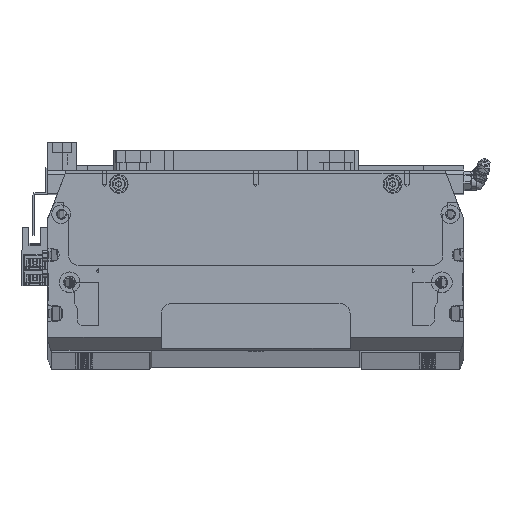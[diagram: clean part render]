
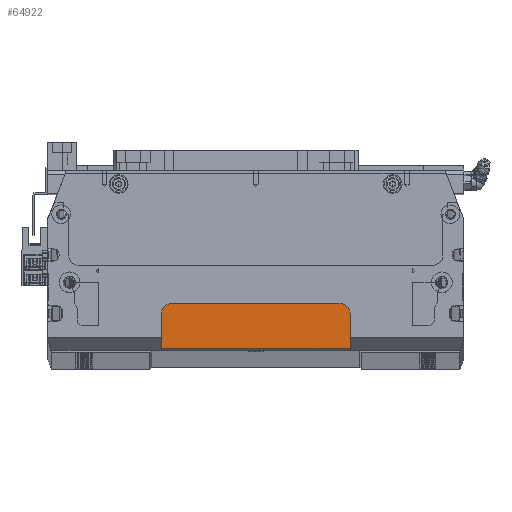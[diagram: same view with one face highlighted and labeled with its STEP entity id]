
A CAD part, top view. The second image highlights one B-rep face of the part: STEP entity #64922.
In plain terms, the highlighted planar face has unit normal (0, 0, 1) as drawn and (0, 1, 0) by its records, which use the part's own axes.
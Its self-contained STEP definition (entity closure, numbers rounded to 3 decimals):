
#22775 = AXIS2_PLACEMENT_3D ( 'NONE', #369869, #223741, #69430 ) ;
#34174 = DIRECTION ( 'NONE',  ( 0., 1., 0. ) ) ;
#55208 = DIRECTION ( 'NONE',  ( -1., 0., 0. ) ) ;
#55587 = CARTESIAN_POINT ( 'NONE',  ( 50., 8., 57.25 ) ) ;
#64922 = ADVANCED_FACE ( 'NONE', ( #362584 ), #90837, .F. ) ;
#69430 = DIRECTION ( 'NONE',  ( 0., 0., -1. ) ) ;
#73937 = CARTESIAN_POINT ( 'NONE',  ( -44., 8., 39.25 ) ) ;
#90837 = PLANE ( 'NONE',  #465467 ) ;
#91127 = LINE ( 'NONE', #220452, #382116 ) ;
#106385 = VECTOR ( 'NONE', #247620, 1000. ) ;
#133000 = VERTEX_POINT ( 'NONE', #485400 ) ;
#140585 = VERTEX_POINT ( 'NONE', #279076 ) ;
#146503 = VERTEX_POINT ( 'NONE', #266286 ) ;
#157043 = ORIENTED_EDGE ( 'NONE', *, *, #229976, .T. ) ;
#162616 = VECTOR ( 'NONE', #368932, 1000. ) ;
#177376 = ORIENTED_EDGE ( 'NONE', *, *, #344106, .T. ) ;
#197341 = EDGE_LOOP ( 'NONE', ( #157043, #357386, #344573, #177376, #432536, #283659 ) ) ;
#206228 = CARTESIAN_POINT ( 'NONE',  ( 110., 8., 57.25 ) ) ;
#211623 = VECTOR ( 'NONE', #55208, 1000. ) ;
#216116 = AXIS2_PLACEMENT_3D ( 'NONE', #73937, #34174, #490618 ) ;
#220452 = CARTESIAN_POINT ( 'NONE',  ( -50., 8., 58.25 ) ) ;
#223741 = DIRECTION ( 'NONE',  ( 0., 1., 0. ) ) ;
#229976 = EDGE_CURVE ( 'NONE', #484537, #413004, #385468, .T. ) ;
#240246 = DIRECTION ( 'NONE',  ( 0., -1., 0. ) ) ;
#245967 = CARTESIAN_POINT ( 'NONE',  ( 50., 8., 58.25 ) ) ;
#247620 = DIRECTION ( 'NONE',  ( 0., 0., -1. ) ) ;
#250235 = EDGE_CURVE ( 'NONE', #413004, #133000, #447961, .T. ) ;
#266286 = CARTESIAN_POINT ( 'NONE',  ( -44., 8., 33.25 ) ) ;
#279076 = CARTESIAN_POINT ( 'NONE',  ( -50., 8., 39.25 ) ) ;
#283364 = DIRECTION ( 'NONE',  ( 0., 0., -1. ) ) ;
#283659 = ORIENTED_EDGE ( 'NONE', *, *, #313228, .F. ) ;
#312589 = LINE ( 'NONE', #206228, #211623 ) ;
#313228 = EDGE_CURVE ( 'NONE', #484537, #360199, #312589, .T. ) ;
#344106 = EDGE_CURVE ( 'NONE', #146503, #140585, #480451, .T. ) ;
#344573 = ORIENTED_EDGE ( 'NONE', *, *, #442599, .T. ) ;
#357386 = ORIENTED_EDGE ( 'NONE', *, *, #250235, .T. ) ;
#360199 = VERTEX_POINT ( 'NONE', #373219 ) ;
#362584 = FACE_OUTER_BOUND ( 'NONE', #197341, .T. ) ;
#368932 = DIRECTION ( 'NONE',  ( -1., 0., 0. ) ) ;
#369869 = CARTESIAN_POINT ( 'NONE',  ( 44., 8., 39.25 ) ) ;
#373219 = CARTESIAN_POINT ( 'NONE',  ( -50., 8., 57.25 ) ) ;
#374683 = CARTESIAN_POINT ( 'NONE',  ( 50., 8., 39.25 ) ) ;
#382116 = VECTOR ( 'NONE', #451113, 1000. ) ;
#385468 = LINE ( 'NONE', #245967, #106385 ) ;
#400575 = CARTESIAN_POINT ( 'NONE',  ( -50., 8., 33.25 ) ) ;
#413004 = VERTEX_POINT ( 'NONE', #374683 ) ;
#429517 = CARTESIAN_POINT ( 'NONE',  ( 0., 8., 0. ) ) ;
#432536 = ORIENTED_EDGE ( 'NONE', *, *, #444552, .T. ) ;
#441707 = LINE ( 'NONE', #400575, #162616 ) ;
#442599 = EDGE_CURVE ( 'NONE', #133000, #146503, #441707, .T. ) ;
#444552 = EDGE_CURVE ( 'NONE', #140585, #360199, #91127, .T. ) ;
#447961 = CIRCLE ( 'NONE', #22775, 6. ) ;
#451113 = DIRECTION ( 'NONE',  ( 0., 0., 1. ) ) ;
#465467 = AXIS2_PLACEMENT_3D ( 'NONE', #429517, #240246, #283364 ) ;
#480451 = CIRCLE ( 'NONE', #216116, 6. ) ;
#484537 = VERTEX_POINT ( 'NONE', #55587 ) ;
#485400 = CARTESIAN_POINT ( 'NONE',  ( 44., 8., 33.25 ) ) ;
#490618 = DIRECTION ( 'NONE',  ( 0., 0., -1. ) ) ;
